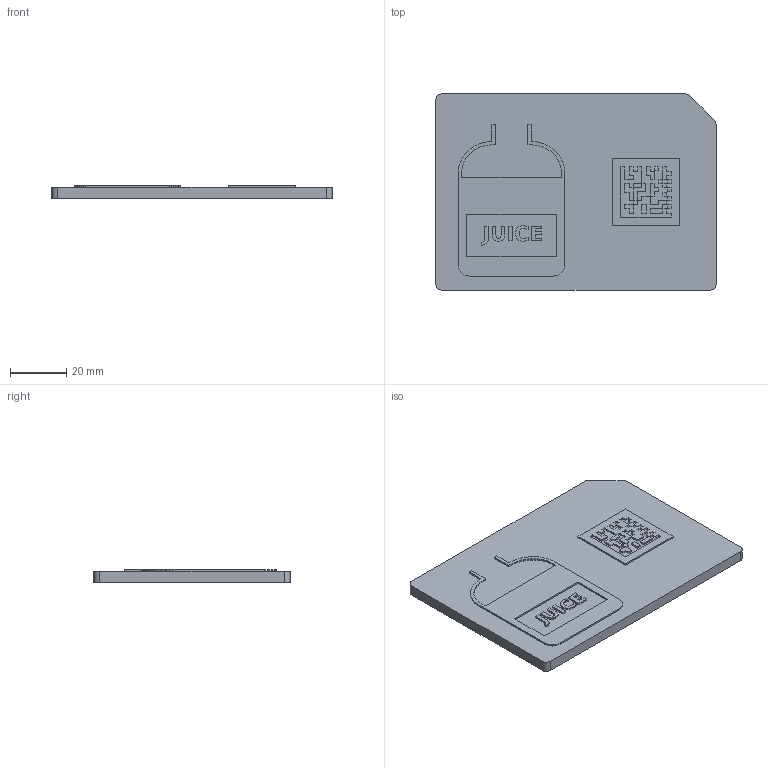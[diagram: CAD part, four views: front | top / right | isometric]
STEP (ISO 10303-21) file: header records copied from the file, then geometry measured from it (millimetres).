
FILE_DESCRIPTION(('Open CASCADE Model'),'2;1');
FILE_NAME('Open CASCADE Shape Model','2026-10-14T18:10:04',('Author'),( 'Open CASCADE'),'Open CASCADE STEP processor 7.9','Open CASCADE 7.9' ,'Unknown');
FILE_SCHEMA(('AUTOMOTIVE_DESIGN { 1 0 10303 214 1 1 1 1 }'));
Length unit declared in the file: millimetre
Products named in the file (3): SN-4832; SN-4832_base_dark; SN-4832_features_red
Assembly tree (2 placements, depth 2):
  SN-4832
    SN-4832_base_dark
    SN-4832_features_red
Bounding box: 100 x 70 x 4.6 mm (x, y, z)
Volume: 28609.1 mm3; surface area: 19716.2 mm2
Topology: 9 solids, 9 shells, 678 faces, 1914 edges, 1276 vertices
Faces by surface type: plane 673, cylinder 5
Entity records: 45881 total; most frequent: CARTESIAN_POINT 8339, DIRECTION 6484, LINE 5094, VECTOR 5094, ORIENTED_EDGE 3828, PCURVE 3828, DEFINITIONAL_REPRESENTATION 3828, EDGE_CURVE 1914
